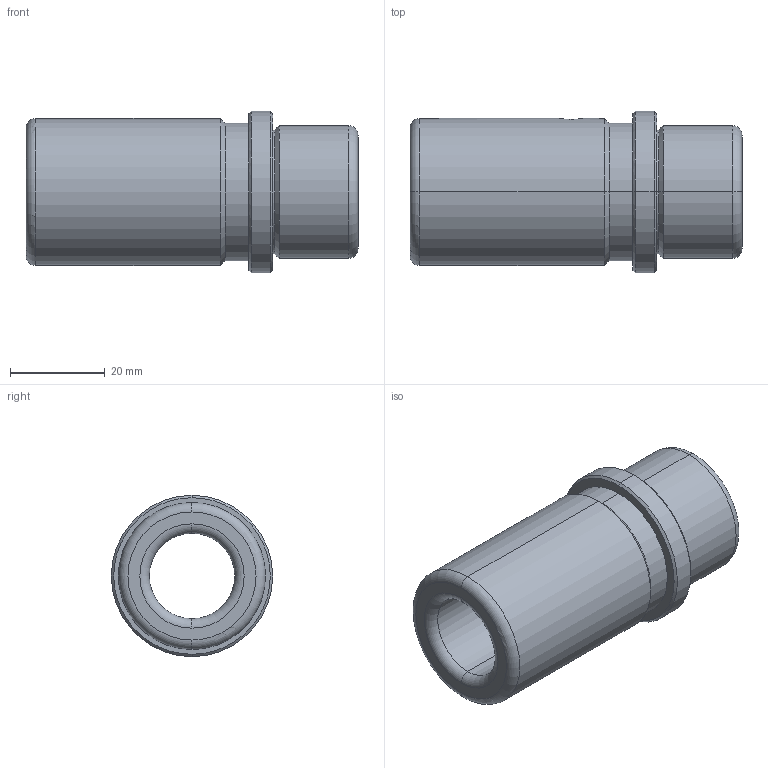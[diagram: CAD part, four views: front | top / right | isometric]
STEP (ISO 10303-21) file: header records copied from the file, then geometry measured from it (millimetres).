
FILE_DESCRIPTION(('CATIA V5 STEP Exchange'),'2;1');
FILE_NAME('C:\Users\Utente\Desktop\IO LAVORO\3D X SITO CF\X SITO\FAMO\FAMO-SF1-E18 x 70.stp','2021-01-06T17:03:42+00:00',('none'),('none'),'CATIA Version 5 Release 20 GA (IN-10)','CATIA V5 STEP AP203','none');
FILE_SCHEMA(('CONFIG_CONTROL_DESIGN'));
Length unit declared in the file: millimetre
Products named in the file (1): FAMO-SF1-E18 x 70
Bounding box: 70 x 34 x 34 mm (x, y, z)
Volume: 32112.6 mm3; surface area: 12037.4 mm2
Topology: 1 solids, 1 shells, 37 faces, 117 edges, 85 vertices
Faces by surface type: cylinder 14, cone 10, torus 8, plane 5
Entity records: 1542 total; most frequent: CARTESIAN_POINT 455, ORIENTED_EDGE 234, DIRECTION 180, AXIS2_PLACEMENT_3D 120, EDGE_CURVE 117, VERTEX_POINT 85, CIRCLE 82, EDGE_LOOP 44
